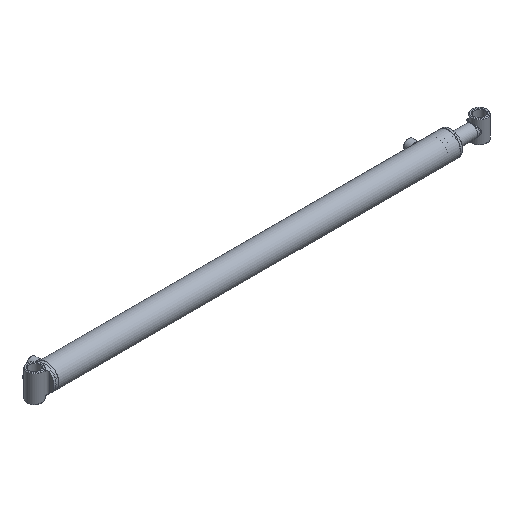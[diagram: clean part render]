
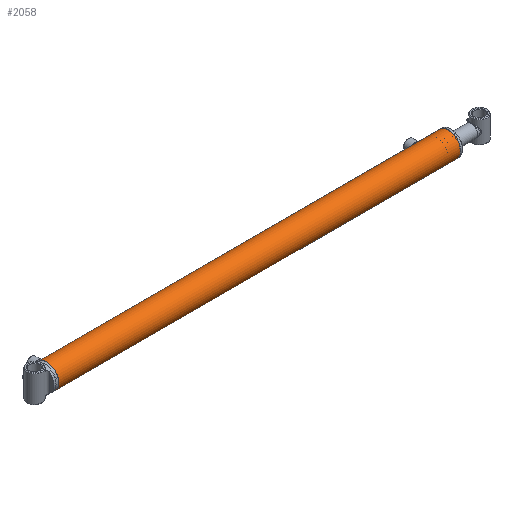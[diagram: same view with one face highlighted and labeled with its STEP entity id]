
A CAD part, isometric view. The second image highlights one B-rep face of the part: STEP entity #2058.
In plain terms, the highlighted cylindrical face has radius 30.163 mm (diameter 60.325 mm), a full revolution.
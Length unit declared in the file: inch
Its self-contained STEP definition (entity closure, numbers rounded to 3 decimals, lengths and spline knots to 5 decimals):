
#377=FACE_BOUND('',#700,.T.);
#378=FACE_BOUND('',#701,.T.);
#379=FACE_BOUND('',#702,.T.);
#500=FACE_OUTER_BOUND('',#699,.T.);
#699=EDGE_LOOP('',(#1636));
#700=EDGE_LOOP('',(#1637));
#701=EDGE_LOOP('',(#1638));
#702=EDGE_LOOP('',(#1639));
#908=CIRCLE('',#2250,1.1875);
#912=CIRCLE('',#2258,1.1875);
#1027=B_SPLINE_CURVE_WITH_KNOTS('',3,(#4709,#4710,#4711,#4712,#4713,#4714,
#4715,#4716,#4717,#4718,#4719,#4720,#4721,#4722,#4723,#4724,#4725,#4726,
#4727,#4728,#4729,#4730,#4731,#4732,#4733,#4734,#4735,#4736,#4737,#4738,
#4739,#4740,#4741,#4742),.UNSPECIFIED.,.T.,.F.,(4,2,2,2,2,2,2,2,2,2,2,2,
2,2,2,2,4),(0.,0.18872,0.37744,0.56616,0.75487,
0.94359,1.1323,1.32102,1.50975,1.69847,
1.88719,2.0759,2.26462,2.45333,2.64205,
2.83077,3.01949),.UNSPECIFIED.);
#1029=B_SPLINE_CURVE_WITH_KNOTS('',3,(#4892,#4893,#4894,#4895,#4896,#4897,
#4898,#4899,#4900,#4901,#4902,#4903,#4904,#4905,#4906,#4907,#4908,#4909,
#4910,#4911,#4912,#4913,#4914,#4915,#4916,#4917,#4918,#4919,#4920,#4921,
#4922,#4923,#4924,#4925),.UNSPECIFIED.,.T.,.F.,(4,2,2,2,2,2,2,2,2,2,2,2,
2,2,2,2,4),(0.,0.18872,0.37744,0.56616,0.75487,
0.94359,1.1323,1.32102,1.50975,1.69847,
1.88719,2.0759,2.26462,2.45333,2.64205,
2.83077,3.01949),.UNSPECIFIED.);
#1098=VERTEX_POINT('',#4708);
#1100=VERTEX_POINT('',#4891);
#1104=VERTEX_POINT('',#4935);
#1108=VERTEX_POINT('',#4947);
#1303=EDGE_CURVE('',#1098,#1098,#1027,.T.);
#1306=EDGE_CURVE('',#1100,#1100,#1029,.T.);
#1310=EDGE_CURVE('',#1104,#1104,#908,.T.);
#1314=EDGE_CURVE('',#1108,#1108,#912,.T.);
#1636=ORIENTED_EDGE('',*,*,#1314,.T.);
#1637=ORIENTED_EDGE('',*,*,#1303,.T.);
#1638=ORIENTED_EDGE('',*,*,#1306,.T.);
#1639=ORIENTED_EDGE('',*,*,#1310,.F.);
#1980=CYLINDRICAL_SURFACE('',#2260,1.1875);
#2058=ADVANCED_FACE('',(#500,#377,#378,#379),#1980,.T.);
#2250=AXIS2_PLACEMENT_3D('',#4936,#2627,#2628);
#2258=AXIS2_PLACEMENT_3D('',#4948,#2643,#2644);
#2260=AXIS2_PLACEMENT_3D('',#4950,#2647,#2648);
#2627=DIRECTION('center_axis',(1.,0.,0.));
#2628=DIRECTION('ref_axis',(0.,-1.,0.));
#2643=DIRECTION('center_axis',(1.,0.,0.));
#2644=DIRECTION('ref_axis',(0.,-1.,0.));
#2647=DIRECTION('center_axis',(1.,0.,0.));
#2648=DIRECTION('ref_axis',(0.,-1.,0.));
#4708=CARTESIAN_POINT('',(17.94094,1.17107,-0.19685));
#4709=CARTESIAN_POINT('Ctrl Pts',(17.94094,1.17107,-0.19685));
#4710=CARTESIAN_POINT('Ctrl Pts',(17.96571,1.17107,-0.19685));
#4711=CARTESIAN_POINT('Ctrl Pts',(17.9921,1.17194,-0.19189));
#4712=CARTESIAN_POINT('Ctrl Pts',(18.04058,1.17505,-0.17179));
#4713=CARTESIAN_POINT('Ctrl Pts',(18.06269,1.17725,-0.15665));
#4714=CARTESIAN_POINT('Ctrl Pts',(18.09759,1.18137,-0.12174));
#4715=CARTESIAN_POINT('Ctrl Pts',(18.11273,1.18356,-0.09964));
#4716=CARTESIAN_POINT('Ctrl Pts',(18.13284,1.18665,-0.05115));
#4717=CARTESIAN_POINT('Ctrl Pts',(18.1378,1.1875,-0.02477));
#4718=CARTESIAN_POINT('Ctrl Pts',(18.1378,1.1875,0.02477));
#4719=CARTESIAN_POINT('Ctrl Pts',(18.13284,1.18665,0.05115));
#4720=CARTESIAN_POINT('Ctrl Pts',(18.11273,1.18356,0.09964));
#4721=CARTESIAN_POINT('Ctrl Pts',(18.09759,1.18137,0.12174));
#4722=CARTESIAN_POINT('Ctrl Pts',(18.06269,1.17725,0.15665));
#4723=CARTESIAN_POINT('Ctrl Pts',(18.04058,1.17505,0.17179));
#4724=CARTESIAN_POINT('Ctrl Pts',(17.9921,1.17194,0.19189));
#4725=CARTESIAN_POINT('Ctrl Pts',(17.96571,1.17107,0.19685));
#4726=CARTESIAN_POINT('Ctrl Pts',(17.91618,1.17107,0.19685));
#4727=CARTESIAN_POINT('Ctrl Pts',(17.88979,1.17194,0.19189));
#4728=CARTESIAN_POINT('Ctrl Pts',(17.84131,1.17505,0.17179));
#4729=CARTESIAN_POINT('Ctrl Pts',(17.8192,1.17725,0.15665));
#4730=CARTESIAN_POINT('Ctrl Pts',(17.7843,1.18137,0.12174));
#4731=CARTESIAN_POINT('Ctrl Pts',(17.76916,1.18356,0.09964));
#4732=CARTESIAN_POINT('Ctrl Pts',(17.74905,1.18665,0.05115));
#4733=CARTESIAN_POINT('Ctrl Pts',(17.74409,1.1875,0.02477));
#4734=CARTESIAN_POINT('Ctrl Pts',(17.74409,1.1875,-0.02477));
#4735=CARTESIAN_POINT('Ctrl Pts',(17.74905,1.18665,-0.05115));
#4736=CARTESIAN_POINT('Ctrl Pts',(17.76916,1.18356,-0.09964));
#4737=CARTESIAN_POINT('Ctrl Pts',(17.7843,1.18137,-0.12174));
#4738=CARTESIAN_POINT('Ctrl Pts',(17.8192,1.17725,-0.15665));
#4739=CARTESIAN_POINT('Ctrl Pts',(17.84131,1.17505,-0.17179));
#4740=CARTESIAN_POINT('Ctrl Pts',(17.88979,1.17194,-0.19189));
#4741=CARTESIAN_POINT('Ctrl Pts',(17.91618,1.17107,-0.19685));
#4742=CARTESIAN_POINT('Ctrl Pts',(17.94094,1.17107,-0.19685));
#4891=CARTESIAN_POINT('',(-19.35827,1.17107,-0.19685));
#4892=CARTESIAN_POINT('Ctrl Pts',(-19.35827,1.17107,-0.19685));
#4893=CARTESIAN_POINT('Ctrl Pts',(-19.3335,1.17107,-0.19685));
#4894=CARTESIAN_POINT('Ctrl Pts',(-19.30712,1.17194,-0.19189));
#4895=CARTESIAN_POINT('Ctrl Pts',(-19.25863,1.17505,-0.17179));
#4896=CARTESIAN_POINT('Ctrl Pts',(-19.23653,1.17725,-0.15665));
#4897=CARTESIAN_POINT('Ctrl Pts',(-19.20162,1.18137,-0.12174));
#4898=CARTESIAN_POINT('Ctrl Pts',(-19.18648,1.18356,-0.09964));
#4899=CARTESIAN_POINT('Ctrl Pts',(-19.16638,1.18665,-0.05115));
#4900=CARTESIAN_POINT('Ctrl Pts',(-19.16142,1.1875,-0.02477));
#4901=CARTESIAN_POINT('Ctrl Pts',(-19.16142,1.1875,0.02477));
#4902=CARTESIAN_POINT('Ctrl Pts',(-19.16638,1.18665,0.05115));
#4903=CARTESIAN_POINT('Ctrl Pts',(-19.18648,1.18356,0.09964));
#4904=CARTESIAN_POINT('Ctrl Pts',(-19.20162,1.18137,0.12174));
#4905=CARTESIAN_POINT('Ctrl Pts',(-19.23653,1.17725,0.15665));
#4906=CARTESIAN_POINT('Ctrl Pts',(-19.25863,1.17505,0.17179));
#4907=CARTESIAN_POINT('Ctrl Pts',(-19.30712,1.17194,0.19189));
#4908=CARTESIAN_POINT('Ctrl Pts',(-19.3335,1.17107,0.19685));
#4909=CARTESIAN_POINT('Ctrl Pts',(-19.38303,1.17107,0.19685));
#4910=CARTESIAN_POINT('Ctrl Pts',(-19.40942,1.17194,0.19189));
#4911=CARTESIAN_POINT('Ctrl Pts',(-19.45791,1.17505,0.17179));
#4912=CARTESIAN_POINT('Ctrl Pts',(-19.48001,1.17725,0.15665));
#4913=CARTESIAN_POINT('Ctrl Pts',(-19.51491,1.18137,0.12174));
#4914=CARTESIAN_POINT('Ctrl Pts',(-19.53006,1.18356,0.09964));
#4915=CARTESIAN_POINT('Ctrl Pts',(-19.55016,1.18665,0.05115));
#4916=CARTESIAN_POINT('Ctrl Pts',(-19.55512,1.1875,0.02477));
#4917=CARTESIAN_POINT('Ctrl Pts',(-19.55512,1.1875,-0.02477));
#4918=CARTESIAN_POINT('Ctrl Pts',(-19.55016,1.18665,-0.05115));
#4919=CARTESIAN_POINT('Ctrl Pts',(-19.53006,1.18356,-0.09964));
#4920=CARTESIAN_POINT('Ctrl Pts',(-19.51491,1.18137,-0.12174));
#4921=CARTESIAN_POINT('Ctrl Pts',(-19.48001,1.17725,-0.15665));
#4922=CARTESIAN_POINT('Ctrl Pts',(-19.45791,1.17505,-0.17179));
#4923=CARTESIAN_POINT('Ctrl Pts',(-19.40942,1.17194,-0.19189));
#4924=CARTESIAN_POINT('Ctrl Pts',(-19.38303,1.17107,-0.19685));
#4925=CARTESIAN_POINT('Ctrl Pts',(-19.35827,1.17107,-0.19685));
#4935=CARTESIAN_POINT('',(19.94882,1.1875,0.));
#4936=CARTESIAN_POINT('Origin',(19.94882,0.,0.));
#4947=CARTESIAN_POINT('',(-19.78494,1.1875,0.));
#4948=CARTESIAN_POINT('Origin',(-19.78494,0.,0.));
#4950=CARTESIAN_POINT('Origin',(0.,0.,0.));
